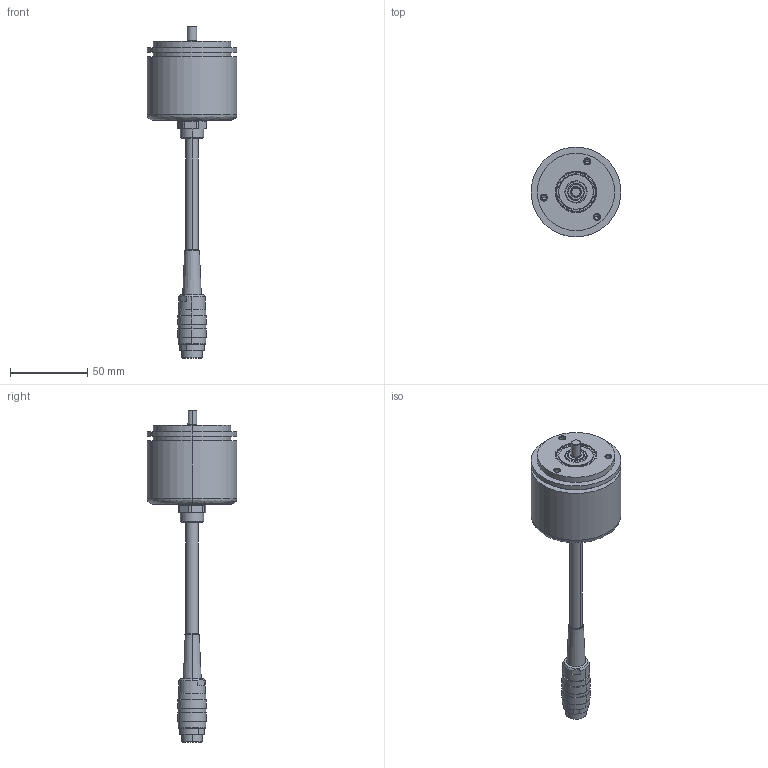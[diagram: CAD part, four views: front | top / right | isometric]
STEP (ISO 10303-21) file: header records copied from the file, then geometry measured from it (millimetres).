
FILE_DESCRIPTION (( 'STEP AP203' ), '1' );
FILE_NAME ('T8-5805-C1xH-xxxx.step', '2013-05-08T14:09:47', ( 'Turck User' ), ( '' ), 'SwSTEP 2.0', 'SolidWorks 2012', '' );
FILE_SCHEMA (( 'CONFIG_CONTROL_DESIGN' ));
Length unit declared in the file: millimetre
Products named in the file (1): T8-5805-C1xH-xxxx
Bounding box: 58 x 58 x 214.45 mm (x, y, z)
Volume: 73436.3 mm3; surface area: 42464.4 mm2
Topology: 1 solids, 6 shells, 326 faces, 887 edges, 543 vertices
Faces by surface type: cylinder 132, cone 71, plane 63, bspline 60
Entity records: 12095 total; most frequent: CARTESIAN_POINT 4097, DIRECTION 1752, ORIENTED_EDGE 1618, EDGE_CURVE 809, AXIS2_PLACEMENT_3D 752, VERTEX_POINT 543, CIRCLE 485, EDGE_LOOP 400
